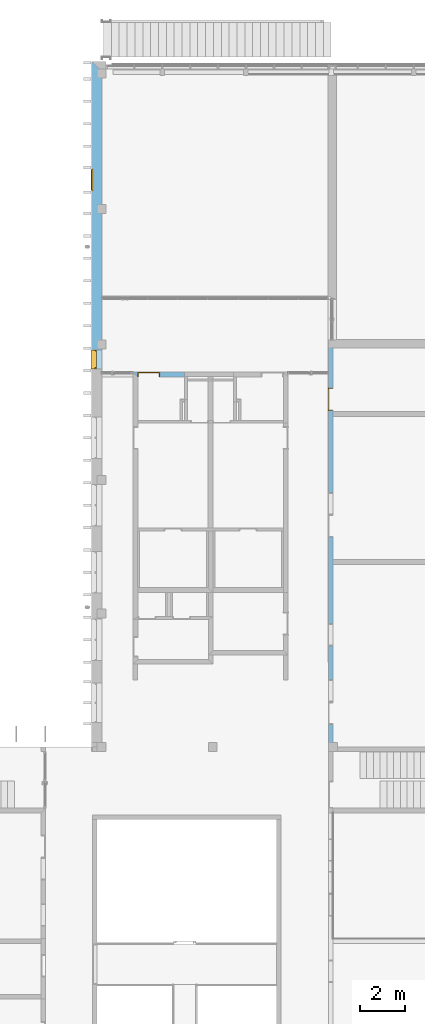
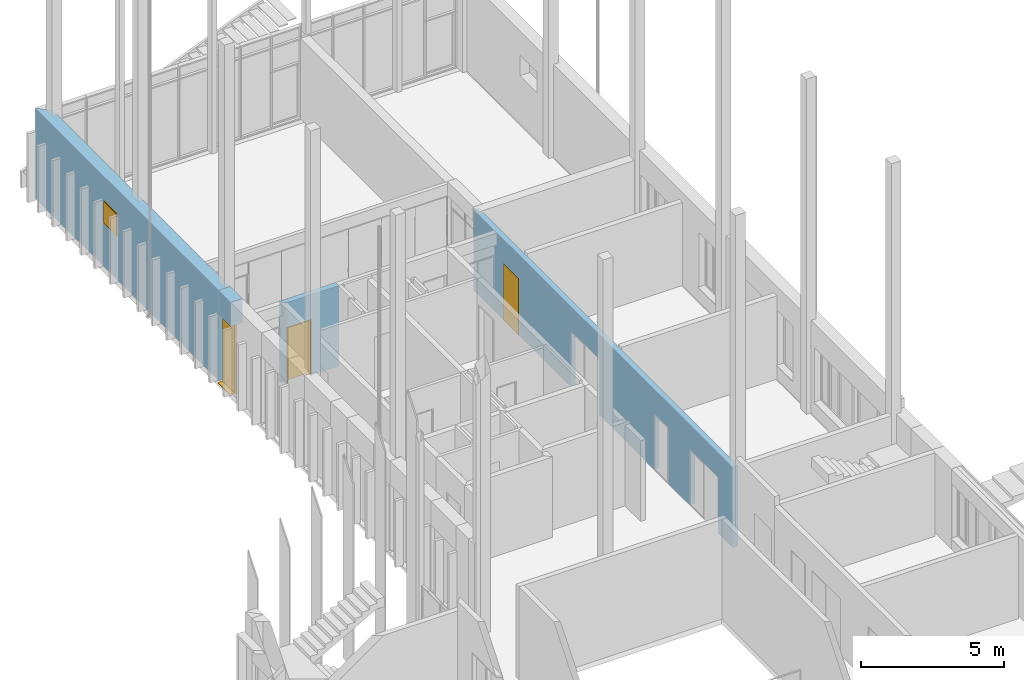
# One storey, part 43 of 89: 2 doors, 2 windows, 9 openings, plus 4 elements that do not belong to this part.
"""IFC2X3 building model written with IfcOpenShell, lengths in millimetres."""

from ifc_helpers import new_model, entity, si_unit, converted_unit, derived_unit, money_unit, direction, frame, origin_with_axes, origin_2d_with_axis, place, context, subcontext, project, spatial, polyline, rectangle, outline, extrude, open_shell, faceted_brep, surface_model, material, layer, layer_set, layer_usage, type_object, element, fill, save


model = new_model("IFC2X3")

# Units and contexts
model_context = context("Model", 3, precision=0.01, world=origin_with_axes(), true_north=direction((0.0, 1.0)))
body_context = subcontext(model_context, "Body", "Model", "MODEL_VIEW")
ifc_project = project(units=[si_unit("LENGTHUNIT", "METRE", prefix="MILLI"), si_unit("AREAUNIT", "SQUARE_METRE"), si_unit("VOLUMEUNIT", "CUBIC_METRE"), converted_unit("PLANEANGLEUNIT", "DEGREE", entity("IfcPlaneAngleMeasure", 0.0174532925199), si_unit("PLANEANGLEUNIT", "RADIAN"), dimensions=[0, 0, 0, 0, 0, 0, 0]), si_unit("SOLIDANGLEUNIT", "STERADIAN"), money_unit("EUR"), converted_unit("TIMEUNIT", "Year", entity("IfcTimeMeasure", 31556926.0), si_unit("TIMEUNIT", "SECOND"), dimensions=[0, 0, 1, 0, 0, 0, 0]), si_unit("MASSUNIT", "GRAM", prefix="KILO"), si_unit("THERMODYNAMICTEMPERATUREUNIT", "DEGREE_CELSIUS"), si_unit("LUMINOUSINTENSITYUNIT", "LUMEN"), si_unit("ENERGYUNIT", "JOULE", prefix="MEGA"), derived_unit("THERMALCONDUCTANCEUNIT", [(si_unit("POWERUNIT", "WATT"), 1), (si_unit("LENGTHUNIT", "METRE"), -1), (si_unit("THERMODYNAMICTEMPERATUREUNIT", "KELVIN"), -1)]), derived_unit("SPECIFICHEATCAPACITYUNIT", [(si_unit("ENERGYUNIT", "JOULE"), 1), (si_unit("MASSUNIT", "GRAM", prefix="KILO"), -1), (si_unit("THERMODYNAMICTEMPERATUREUNIT", "KELVIN"), -1)]), derived_unit("MASSDENSITYUNIT", [(si_unit("MASSUNIT", "GRAM", prefix="KILO"), 1), (si_unit("VOLUMEUNIT", "CUBIC_METRE"), -1)])], contexts=[model_context])

# Site, building, storey
site_placement = place(None, origin_with_axes())
site = spatial("IfcSite", under=ifc_project, at=site_placement, Name="Puškini 31, Narva", CompositionType="ELEMENT")
building_placement = place(site_placement, origin_with_axes())
building = spatial("IfcBuilding", under=site, at=building_placement, Name="Narva Riigigümnaasium", CompositionType="ELEMENT")
storey_placement = place(building_placement, frame((0.0, 0.0, -3300.0), z_axis=(0.0, 0.0, 1.0), x_axis=(1.0, 0.0, 0.0)))
storey = spatial("IfcBuildingStorey", under=building, at=storey_placement, Name="1.korrus -3.3", CompositionType="ELEMENT", Elevation=-3300.0)

# Wall, opening, window
ifc_material_1 = material(Name="fassaadiplaat")
ifc_layer_1 = layer(ifc_material_1, 8.0, ventilated="UNKNOWN")
ifc_material_2 = material(Name="Salto-roovitus")
ifc_layer_2 = layer(ifc_material_2, 50.0, ventilated="UNKNOWN")
ifc_material_3 = material(Name="Salto-PIR soojustus")
ifc_layer_3 = layer(ifc_material_3, 50.0, ventilated="UNKNOWN")
ifc_layer_4 = layer(ifc_material_3, 150.0, ventilated="UNKNOWN")
ifc_material_4 = material(Name="Betoon element")
ifc_layer_5 = layer(ifc_material_4, 200.0, ventilated="UNKNOWN")
ifc_material_5 = material(Name="Salto-siseviimistlus-seinad")
ifc_layer_6 = layer(ifc_material_5, 10.0, ventilated="UNKNOWN")
ifc_layer_set_1 = layer_set([ifc_layer_1, ifc_layer_2, ifc_layer_3, ifc_layer_4, ifc_layer_5, ifc_layer_6], Name="G-VS-01")
ifc_layer_usage_1 = layer_usage(ifc_layer_set_1, "AXIS2", "POSITIVE", -458.0)
wall_type_1 = type_object("IfcWallType", Name="G-VS-01 468", PredefinedType="NOTDEFINED")
wall_1_placement = place(storey_placement, frame((37400.0000002, 254108.805854, 100.0), z_axis=(0.0, 0.0, 1.0), x_axis=(0.0, -1.0, 0.0)))
wall_1 = element("IfcWallStandardCase", 1, at=wall_1_placement, inside=storey, type_object=wall_type_1, material=ifc_layer_usage_1, Name="Välissein", context=body_context, shape_type="SweptSolid", body=[
    extrude(outline(polyline([(-458.0, -458.0), (12399.5932762, -458.0), (12399.5932762, 10.0), (9.99999999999, 10.0), (-458.0, -458.0)])), origin_with_axes(), (0.0, 0.0, 1.0), 3859.99999955),
])
opening_1_placement = place(wall_1_placement, frame((4824.59327625, 0.0, 1850.0), z_axis=(0.0, 0.0, 1.0), x_axis=(1.0, 0.0, 0.0)))
opening_1 = element("IfcOpeningElement", 2, at=opening_1_placement, cuts=wall_1, Name="G-SL-01", context=body_context, shape_type="SweptSolid", body=[
    extrude(rectangle(XDim=990.0, YDim=990.0, at=origin_2d_with_axis()), frame((0.0, 468.0, 495.0), z_axis=(0.0, 1.0, 0.0), x_axis=(1.0, 0.0, 0.0)), (0.0, 0.0, -1.0), 1404.0),
])
window_style_1 = type_object("IfcWindowStyle", Name="Horizontal Multi-Sash Window 23", ConstructionType="NOTDEFINED", OperationType="SINGLE_PANEL", ParameterTakesPrecedence=False, Sizeable=False)
window_1_placement = place(opening_1_placement, frame((495.0, 0.0, 0.0), z_axis=(0.0, 0.0, 1.0), x_axis=(-1.0, 0.0, 0.0)))
window_1 = element("IfcWindow", 3, at=window_1_placement, inside=storey, type_object=window_style_1, Name="G-SL-01", ObjectType="WINDOW", OverallHeight=990.0, OverallWidth=990.0, context=body_context, shape_type="Brep", body=[
    faceted_brep([(950.0, 458.0, 940.0), (950.0, 388.0, 940.0), (940.0, 388.0, 940.0), (940.0, 383.0, 940.0), (990.0, 383.0, 940.0), (990.0, 458.0, 940.0), (950.0, 458.0, 50.0), (950.0, 388.0, 50.0), (940.0, 388.0, 50.0), (940.0, 383.0, 50.0), (990.0, 383.0, 50.0), (990.0, 458.0, 50.0)], [[[0, 1, 2, 3, 4, 5]], [[1, 0, 6, 7]], [[8, 2, 1, 7]], [[2, 8, 9, 3]], [[4, 3, 9, 10]], [[5, 4, 10, 11]], [[6, 0, 5, 11]], [[7, 6, 11, 10, 9, 8]]]),
    faceted_brep([(50.0, 388.0, 940.0), (40.0, 388.0, 940.0), (40.0, 458.0, 940.0), (0.0, 458.0, 940.0), (0.0, 383.0, 940.0), (50.0, 383.0, 940.0), (50.0, 388.0, 50.0), (40.0, 388.0, 50.0), (40.0, 458.0, 50.0), (0.0, 458.0, 50.0), (0.0, 383.0, 50.0), (50.0, 383.0, 50.0)], [[[0, 1, 2, 3, 4, 5]], [[1, 0, 6, 7]], [[8, 2, 1, 7]], [[2, 8, 9, 3]], [[9, 10, 4, 3]], [[10, 11, 5, 4]], [[6, 0, 5, 11]], [[7, 6, 11, 10, 9, 8]]]),
    faceted_brep([(950.0, 458.0, 940.0), (950.0, 458.0, 950.0), (40.0, 458.0, 950.0), (40.0, 458.0, 940.0), (0.0, 458.0, 940.0), (0.0, 458.0, 990.0), (990.0, 458.0, 990.0), (990.0, 458.0, 940.0), (950.0, 388.0, 940.0), (950.0, 388.0, 950.0), (40.0, 388.0, 950.0), (40.0, 388.0, 940.0), (50.0, 388.0, 940.0), (50.0, 383.0, 940.0), (0.0, 383.0, 940.0), (0.0, 383.0, 990.0), (990.0, 383.0, 990.0), (990.0, 383.0, 940.0), (940.0, 383.0, 940.0), (940.0, 388.0, 940.0)], [[[0, 1, 2, 3, 4, 5, 6, 7]], [[1, 0, 8, 9]], [[2, 1, 9, 10]], [[3, 2, 10, 11]], [[11, 12, 13, 14, 4, 3]], [[4, 14, 15, 5]], [[5, 15, 16, 6]], [[6, 16, 17, 7]], [[8, 0, 7, 17, 18, 19]], [[12, 11, 10, 9, 8, 19]], [[12, 19, 18, 13]], [[14, 13, 18, 17, 16, 15]]]),
    faceted_brep([(50.0, 388.0, 50.0), (40.0, 388.0, 50.0), (40.0, 458.0, 50.0), (0.0, 458.0, 50.0), (0.0, 383.0, 50.0), (50.0, 383.0, 50.0), (940.0, 388.0, 50.0), (950.0, 388.0, 50.0), (950.0, 388.0, 40.0), (40.0, 388.0, 40.0), (40.0, 458.0, 40.0), (950.0, 458.0, 40.0), (950.0, 458.0, 50.0), (990.0, 458.0, 50.0), (990.0, 458.0, 0.0), (0.0, 458.0, 0.0), (0.0, 383.0, 0.0), (990.0, 383.0, 50.0), (940.0, 383.0, 50.0), (990.0, 383.0, 0.0)], [[[0, 1, 2, 3, 4, 5]], [[1, 0, 6, 7, 8, 9]], [[10, 2, 1, 9]], [[11, 12, 13, 14, 15, 3, 2, 10]], [[15, 16, 4, 3]], [[17, 18, 5, 4, 16, 19]], [[6, 0, 5, 18]], [[7, 6, 18, 17, 13, 12]], [[7, 12, 11, 8]], [[11, 10, 9, 8]], [[13, 17, 19, 14]], [[14, 19, 16, 15]]]),
    faceted_brep([(950.0, 388.0, 40.0), (40.0, 388.0, 40.0), (40.0, 473.0, 40.0), (950.0, 473.0, 40.0), (950.0, 388.0, 950.0), (40.0, 388.0, 950.0), (40.0, 473.0, 950.0), (950.0, 473.0, 950.0)], [[[0, 1, 2, 3]], [[0, 4, 5, 1]], [[1, 5, 6, 2]], [[3, 2, 6, 7]], [[4, 0, 3, 7]], [[5, 4, 7, 6]]]),
])
fill(opening_1, window_1)

wall_2_placement = place(storey_placement, frame((37400.0000002, 241709.212578, 0.0), z_axis=(0.0, 0.0, 1.0), x_axis=(0.0, -1.0, 0.0)))
wall_2 = element("IfcWallStandardCase", 4, at=wall_2_placement, inside=storey, type_object=wall_type_1, material=ifc_layer_usage_1, Name="Välissein", context=body_context, shape_type="SweptSolid", body=[
    extrude(outline(polyline([(0.0, -458.0), (850.0, -458.0), (850.0, 10.0), (0.0, 10.0), (0.0, -458.0)])), origin_with_axes(), (0.0, 0.0, 1.0), 3959.99999955),
])
opening_2_placement = place(wall_2_placement, frame((425.0, 0.0, 0.0), z_axis=(0.0, 0.0, 1.0), x_axis=(1.0, 0.0, 0.0)))
opening_2 = element("IfcOpeningElement", 5, at=opening_2_placement, cuts=wall_2, Name="G-A-27", context=body_context, shape_type="SweptSolid", body=[
    extrude(rectangle(XDim=850.0, YDim=2940.0, at=origin_2d_with_axis()), frame((0.0, -308.0, 1470.0), z_axis=(0.0, 1.0, 0.0), x_axis=(-1.0, 0.0, 0.0)), (0.0, 0.0, 1.0), 786.0),
    extrude(rectangle(XDim=850.0, YDim=2940.0, at=origin_2d_with_axis()), frame((0.0, -308.0, 1470.0), z_axis=(0.0, -1.0, 0.0), x_axis=(-1.0, 0.0, 0.0)), (0.0, 0.0, 1.0), 618.0),
])
window_style_2 = type_object("IfcWindowStyle", Name="Horizontal Multi-Sash Window 23", ConstructionType="NOTDEFINED", OperationType="SINGLE_PANEL", ParameterTakesPrecedence=False, Sizeable=False)
window_2_placement = place(opening_2_placement, frame((-425.0, 0.0, 0.0), z_axis=(0.0, 0.0, 1.0), x_axis=(1.0, 0.0, 0.0)))
window_2 = element("IfcWindow", 6, at=window_2_placement, inside=storey, type_object=window_style_2, Name="G-A-27", ObjectType="WINDOW", OverallHeight=2940.0, OverallWidth=850.0, context=body_context, shape_type="SurfaceModel", body=[
    surface_model("IfcShellBasedSurfaceModel", [(850.0, -309.0, 50.0), (0.0, -309.0, 50.0), (0.0, -309.0, 40.0), (850.0, -309.0, 40.0), (0.0, -488.0, 28.0), (850.0, -488.0, 28.0), (0.0, -488.0, 8.0), (850.0, -488.0, 8.0), (0.0, -478.0, 18.0), (850.0, -478.0, 18.0)], [open_shell([[[0, 1, 2, 3]], [[3, 2, 4, 5]], [[5, 4, 6, 7]], [[7, 6, 8, 9]]])]),
    faceted_brep([(800.0, -308.0, 2890.0), (850.0, -308.0, 2890.0), (850.0, -233.0, 2890.0), (800.0, -233.0, 2890.0), (800.0, -308.0, 50.0), (850.0, -308.0, 50.0), (850.0, -233.0, 50.0), (800.0, -233.0, 50.0)], [[[0, 1, 2, 3]], [[0, 4, 5, 1]], [[1, 5, 6, 2]], [[3, 2, 6, 7]], [[4, 0, 3, 7]], [[5, 4, 7, 6]]]),
    faceted_brep([(50.0, -308.0, 50.0), (0.0, -308.0, 50.0), (0.0, -233.0, 50.0), (50.0, -233.0, 50.0), (50.0, -308.0, 2890.0), (0.0, -308.0, 2890.0), (0.0, -233.0, 2890.0), (50.0, -233.0, 2890.0)], [[[0, 1, 2, 3]], [[0, 4, 5, 1]], [[1, 5, 6, 2]], [[3, 2, 6, 7]], [[4, 0, 3, 7]], [[5, 4, 7, 6]]]),
    faceted_brep([(50.0, -308.0, 2890.0), (0.0, -308.0, 2890.0), (0.0, -233.0, 2890.0), (50.0, -233.0, 2890.0), (800.0, -308.0, 2890.0), (850.0, -308.0, 2890.0), (850.0, -308.0, 2940.0), (0.0, -308.0, 2940.0), (0.0, -233.0, 2940.0), (850.0, -233.0, 2940.0), (850.0, -233.0, 2890.0), (800.0, -233.0, 2890.0)], [[[0, 1, 2, 3]], [[0, 4, 5, 6, 7, 1]], [[1, 7, 8, 2]], [[3, 2, 8, 9, 10, 11]], [[4, 0, 3, 11]], [[5, 4, 11, 10]], [[6, 5, 10, 9]], [[7, 6, 9, 8]]]),
    faceted_brep([(800.0, -308.0, 50.0), (850.0, -308.0, 50.0), (850.0, -233.0, 50.0), (800.0, -233.0, 50.0), (50.0, -308.0, 50.0), (0.0, -308.0, 50.0), (0.0, -308.0, 0.0), (850.0, -308.0, 0.0), (850.0, -233.0, 0.0), (0.0, -233.0, 0.0), (0.0, -233.0, 50.0), (50.0, -233.0, 50.0)], [[[0, 1, 2, 3]], [[0, 4, 5, 6, 7, 1]], [[1, 7, 8, 2]], [[3, 2, 8, 9, 10, 11]], [[4, 0, 3, 11]], [[5, 4, 11, 10]], [[6, 5, 10, 9]], [[7, 6, 9, 8]]]),
    surface_model("IfcShellBasedSurfaceModel", [(800.0, -313.0, 50.0), (800.0, -313.0, 2890.0), (50.0, -313.0, 2890.0), (50.0, -313.0, 50.0)], [open_shell([[[0, 1, 2, 3]]])]),
    surface_model("IfcShellBasedSurfaceModel", [(800.0, -293.0, 50.0), (50.0, -293.0, 50.0), (50.0, -293.0, 2890.0), (800.0, -293.0, 2890.0)], [open_shell([[[0, 1, 2, 3]]])]),
])
fill(opening_2, window_2)

# Wall, openings, door
ifc_material_6 = material(Name="siseviimistlus-seinad")
ifc_layer_7 = layer(ifc_material_6, 10.0, ventilated="UNKNOWN")
ifc_layer_set_2 = layer_set([ifc_layer_5, ifc_layer_7], Name="G-SS-01-02")
ifc_layer_usage_2 = layer_usage(ifc_layer_set_2, "AXIS2", "POSITIVE", 0.0)
wall_type_2 = type_object("IfcWallType", Name="G-SS-01-02 210", PredefinedType="NOTDEFINED")
wall_3_placement = place(storey_placement, frame((47500.0000001, 242160.000057, 0.0), z_axis=(0.0, 0.0, 1.0), x_axis=(0.0, -1.0, 0.0)))
wall_3 = element("IfcWallStandardCase", 7, at=wall_3_placement, inside=storey, type_object=wall_type_2, material=ifc_layer_usage_2, Name="Sisesein", context=body_context, shape_type="SweptSolid", body=[
    extrude(outline(polyline([(0.0, 0.0), (18160.0000567, 0.0), (18160.0000567, 210.0), (0.0, 210.0), (0.0, 0.0)])), origin_with_axes(), (0.0, 0.0, 1.0), 3445.0),
])
opening_3_placement = place(wall_3_placement, frame((15650.0000565, 0.0, 0.0), z_axis=(0.0, 0.0, 1.0), x_axis=(1.0, 0.0, 0.0)))
element("IfcOpeningElement", 8, at=opening_3_placement, cuts=wall_3, Name="G-SA-1", context=body_context, shape_type="SweptSolid", body=[
    extrude(rectangle(XDim=1000.0, YDim=2400.0, at=origin_2d_with_axis()), frame((0.0, 210.0, 1200.0), z_axis=(0.0, -1.0, 0.0), x_axis=(-1.0, 0.0, 0.0)), (0.0, 0.0, 1.0), 630.0),
])
opening_4_placement = place(wall_3_placement, frame((13154.7633082, 0.0, 0.0), z_axis=(0.0, 0.0, 1.0), x_axis=(1.0, 0.0, 0.0)))
element("IfcOpeningElement", 9, at=opening_4_placement, cuts=wall_3, Name="G-SA-1", context=body_context, shape_type="SweptSolid", body=[
    extrude(rectangle(XDim=1000.0, YDim=2400.0, at=origin_2d_with_axis()), frame((0.0, 210.0, 1200.0), z_axis=(0.0, -1.0, 0.0), x_axis=(-1.0, 0.0, 0.0)), (0.0, 0.0, 1.0), 630.0),
])
opening_5_placement = place(wall_3_placement, frame((7306.06697513, 0.0, 0.0), z_axis=(0.0, 0.0, 1.0), x_axis=(1.0, 0.0, 0.0)))
element("IfcOpeningElement", 10, at=opening_5_placement, cuts=wall_3, Name="G-SA-1", context=body_context, shape_type="SweptSolid", body=[
    extrude(rectangle(XDim=1000.0, YDim=2400.0, at=origin_2d_with_axis()), frame((0.0, 210.0, 1200.0), z_axis=(0.0, -1.0, 0.0), x_axis=(-1.0, 0.0, 0.0)), (0.0, 0.0, 1.0), 630.0),
])
opening_6_placement = place(wall_3_placement, frame((2654.76330894, 0.0, 0.0), z_axis=(0.0, 0.0, 1.0), x_axis=(1.0, 0.0, 0.0)))
opening_6 = element("IfcOpeningElement", 11, at=opening_6_placement, cuts=wall_3, Name="G-SU-052", context=body_context, shape_type="SweptSolid", body=[
    extrude(rectangle(XDim=1000.0, YDim=2400.0, at=origin_2d_with_axis()), frame((0.0, 210.0, 1200.0), z_axis=(0.0, -1.0, 0.0), x_axis=(1.0, 0.0, 0.0)), (0.0, 0.0, 1.0), 630.0),
    extrude(rectangle(XDim=1060.0, YDim=2430.0, at=origin_2d_with_axis()), frame((0.0, 210.0, 1215.0), z_axis=(0.0, -1.0, 0.0), x_axis=(1.0, 0.0, 0.0)), (0.0, 0.0, -1.0), 210.0),
    extrude(rectangle(XDim=1056.0, YDim=2428.0, at=origin_2d_with_axis()), frame((0.0, 0.0, 1214.0), z_axis=(0.0, 1.0, 0.0), x_axis=(1.0, 0.0, 0.0)), (0.0, 0.0, -1.0), 210.0),
])
opening_7_placement = place(wall_3_placement, frame((8306.06697513, 0.0, 0.0), z_axis=(0.0, 0.0, 1.0), x_axis=(1.0, 0.0, 0.0)))
element("IfcOpeningElement", 12, at=opening_7_placement, cuts=wall_3, Name="G-SU-053", context=body_context, shape_type="SweptSolid", body=[
    extrude(rectangle(XDim=1000.0, YDim=2400.0, at=origin_2d_with_axis()), frame((0.0, 210.0, 1200.0), z_axis=(0.0, 1.0, 0.0), x_axis=(1.0, 0.0, 0.0)), (0.0, 0.0, -1.0), 630.0),
])
opening_8_placement = place(wall_3_placement, frame((16650.0000565, 0.0, 0.0), z_axis=(0.0, 0.0, 1.0), x_axis=(1.0, 0.0, 0.0)))
element("IfcOpeningElement", 13, at=opening_8_placement, cuts=wall_3, Name="G-SU-054", context=body_context, shape_type="SweptSolid", body=[
    extrude(rectangle(XDim=1000.0, YDim=2400.0, at=origin_2d_with_axis()), frame((0.0, 210.0, 1200.0), z_axis=(0.0, 1.0, 0.0), x_axis=(1.0, 0.0, 0.0)), (0.0, 0.0, -1.0), 630.0),
])
door_style_1 = type_object("IfcDoorStyle", Name="Door 23", ConstructionType="NOTDEFINED", OperationType="SINGLE_SWING_RIGHT", ParameterTakesPrecedence=False, Sizeable=False)
door_1_placement = place(opening_6_placement, frame((-500.0, 0.0, 0.0), z_axis=(0.0, 0.0, 1.0), x_axis=(1.0, 0.0, 0.0)))
door_1 = element("IfcDoor", 14, at=door_1_placement, inside=storey, type_object=door_style_1, Name="G-SU-052", ObjectType="DOOR", OverallHeight=2400.0, OverallWidth=1000.0, context=body_context, shape_type="Brep", body=[
    faceted_brep([(0.0, 40.0, 0.0), (0.0, 210.0, 0.0), (30.0, 210.0, 0.0), (30.0, 40.0, 0.0), (0.0, 40.0, 2400.0), (0.0, 210.0, 2400.0), (30.0, 210.0, 2370.0), (30.0, 40.0, 2370.0)], [[[0, 1, 2, 3]], [[4, 5, 1, 0]], [[1, 5, 6, 2]], [[3, 2, 6, 7]], [[0, 3, 7, 4]], [[7, 6, 5, 4]]]),
    faceted_brep([(1000.0, 40.0, 2400.0), (1000.0, 210.0, 2400.0), (970.0, 210.0, 2370.0), (970.0, 40.0, 2370.0), (1000.0, 40.0, 0.0), (1000.0, 210.0, 0.0), (970.0, 210.0, 0.0), (970.0, 40.0, 0.0)], [[[0, 1, 2, 3]], [[4, 5, 1, 0]], [[1, 5, 6, 2]], [[3, 2, 6, 7]], [[0, 3, 7, 4]], [[7, 6, 5, 4]]]),
    faceted_brep([(30.0, 40.0, 2370.0), (30.0, 210.0, 2370.0), (970.0, 210.0, 2370.0), (970.0, 40.0, 2370.0), (0.0, 40.0, 2400.0), (0.0, 210.0, 2400.0), (1000.0, 210.0, 2400.0), (1000.0, 40.0, 2400.0)], [[[0, 1, 2, 3]], [[4, 5, 1, 0]], [[1, 5, 6, 2]], [[3, 2, 6, 7]], [[0, 3, 7, 4]], [[7, 6, 5, 4]]]),
    faceted_brep([(-30.0, 220.0, 0.0), (30.0, 220.0, 0.0), (30.0, 210.0, 0.0), (-30.0, 210.0, 0.0), (-30.0, 220.0, 2430.0), (30.0, 220.0, 2370.0), (30.0, 210.0, 2370.0), (-30.0, 210.0, 2430.0)], [[[0, 1, 2, 3]], [[0, 4, 5, 1]], [[1, 5, 6, 2]], [[3, 2, 6, 7]], [[4, 0, 3, 7]], [[5, 4, 7, 6]]]),
    faceted_brep([(1030.0, 220.0, 2430.0), (970.0, 220.0, 2370.0), (970.0, 210.0, 2370.0), (1030.0, 210.0, 2430.0), (1030.0, 220.0, 0.0), (970.0, 220.0, 0.0), (970.0, 210.0, 0.0), (1030.0, 210.0, 0.0)], [[[0, 1, 2, 3]], [[0, 4, 5, 1]], [[1, 5, 6, 2]], [[3, 2, 6, 7]], [[4, 0, 3, 7]], [[5, 4, 7, 6]]]),
    faceted_brep([(-30.0, 220.0, 2430.0), (30.0, 220.0, 2370.0), (30.0, 210.0, 2370.0), (-30.0, 210.0, 2430.0), (1030.0, 220.0, 2430.0), (970.0, 220.0, 2370.0), (970.0, 210.0, 2370.0), (1030.0, 210.0, 2430.0)], [[[0, 1, 2, 3]], [[0, 4, 5, 1]], [[1, 5, 6, 2]], [[3, 2, 6, 7]], [[4, 0, 3, 7]], [[5, 4, 7, 6]]]),
    faceted_brep([(-28.0, -10.0, 0.0), (-28.0, 0.0, 0.0), (42.0, 0.0, 0.0), (42.0, -10.0, 0.0), (-28.0, -10.0, 2428.0), (-28.0, 0.0, 2428.0), (42.0, 0.0, 2358.0), (42.0, -10.0, 2358.0)], [[[0, 1, 2, 3]], [[4, 5, 1, 0]], [[1, 5, 6, 2]], [[3, 2, 6, 7]], [[0, 3, 7, 4]], [[7, 6, 5, 4]]]),
    faceted_brep([(1028.0, -10.0, 2428.0), (1028.0, 0.0, 2428.0), (958.0, 0.0, 2358.0), (958.0, -10.0, 2358.0), (1028.0, -10.0, 0.0), (1028.0, 0.0, 0.0), (958.0, 0.0, 0.0), (958.0, -10.0, 0.0)], [[[0, 1, 2, 3]], [[4, 5, 1, 0]], [[1, 5, 6, 2]], [[3, 2, 6, 7]], [[0, 3, 7, 4]], [[7, 6, 5, 4]]]),
    faceted_brep([(-28.0, -10.0, 2428.0), (-28.0, 0.0, 2428.0), (42.0, 0.0, 2358.0), (42.0, -10.0, 2358.0), (1028.0, -10.0, 2428.0), (1028.0, 0.0, 2428.0), (958.0, 0.0, 2358.0), (958.0, -10.0, 2358.0)], [[[0, 1, 2, 3]], [[4, 5, 1, 0]], [[1, 5, 6, 2]], [[3, 2, 6, 7]], [[0, 3, 7, 4]], [[7, 6, 5, 4]]]),
    faceted_brep([(0.0, 40.0, 0.0), (42.0, 40.0, 0.0), (42.0, 0.0, 0.0), (0.0, 0.0, 0.0), (0.0, 40.0, 2358.0), (42.0, 40.0, 2358.0), (42.0, 0.0, 2358.0), (0.0, 0.0, 2358.0)], [[[0, 1, 2, 3]], [[0, 4, 5, 1]], [[1, 5, 6, 2]], [[3, 2, 6, 7]], [[4, 0, 3, 7]], [[5, 4, 7, 6]]]),
    faceted_brep([(1000.0, 40.0, 0.0), (1000.0, 40.0, 2358.0), (1000.0, 0.0, 2358.0), (1000.0, 0.0, 0.0), (958.0, 40.0, 0.0), (958.0, 40.0, 2358.0), (958.0, 0.0, 2358.0), (958.0, 0.0, 0.0)], [[[0, 1, 2, 3]], [[0, 4, 5, 1]], [[1, 5, 6, 2]], [[3, 2, 6, 7]], [[4, 0, 3, 7]], [[5, 4, 7, 6]]]),
    faceted_brep([(0.0, 40.0, 2400.0), (0.0, 40.0, 2358.0), (0.0, 0.0, 2358.0), (0.0, 0.0, 2400.0), (1000.0, 40.0, 2400.0), (1000.0, 40.0, 2358.0), (958.0, 40.0, 2358.0), (42.0, 40.0, 2358.0), (42.0, 0.0, 2358.0), (958.0, 0.0, 2358.0), (1000.0, 0.0, 2358.0), (1000.0, 0.0, 2400.0)], [[[0, 1, 2, 3]], [[0, 4, 5, 6, 7, 1]], [[1, 7, 8, 2]], [[3, 2, 8, 9, 10, 11]], [[4, 0, 3, 11]], [[5, 4, 11, 10]], [[6, 5, 10, 9]], [[7, 6, 9, 8]]]),
    faceted_brep([(958.0, 40.0, 0.0), (958.0, 0.0, 0.0), (42.0, 0.0, 0.0), (42.0, 40.0, 0.0), (958.0, 40.0, 2358.0), (958.0, 0.0, 2358.0), (42.0, 0.0, 2358.0), (42.0, 40.0, 2358.0)], [[[0, 1, 2, 3]], [[4, 5, 1, 0]], [[1, 5, 6, 2]], [[3, 2, 6, 7]], [[0, 3, 7, 4]], [[7, 6, 5, 4]]]),
])
fill(opening_6, door_1)

# Wall, opening, door
ifc_layer_8 = layer(ifc_material_6, 15.0, ventilated="UNKNOWN")
ifc_material_7 = material(Name="õõnes betoonplokk")
ifc_layer_9 = layer(ifc_material_7, 190.0, ventilated="UNKNOWN")
ifc_layer_set_3 = layer_set([ifc_layer_8, ifc_layer_9, ifc_layer_7], Name="G-SS-02-03")
ifc_layer_usage_3 = layer_usage(ifc_layer_set_3, "AXIS2", "POSITIVE", -15.0)
wall_type_3 = type_object("IfcWallType", Name="G-SS-02-03 215", PredefinedType="NOTDEFINED")
wall_4_placement = place(storey_placement, frame((39000.0000003, 240510.000001, 0.0), z_axis=(0.0, 0.0, 1.0), x_axis=(1.0, 0.0, 0.0)))
wall_4 = element("IfcWallStandardCase", 15, at=wall_4_placement, inside=storey, type_object=wall_type_3, material=ifc_layer_usage_3, Name="Sisesein", context=body_context, shape_type="SweptSolid", body=[
    extrude(outline(polyline([(15.0, -15.0), (2100.93401658, -15.0), (2100.93401658, 200.0), (-200.0, 200.0), (15.0, -15.0)])), origin_with_axes(), (0.0, 0.0, 1.0), 3445.0),
])
opening_9_placement = place(wall_4_placement, frame((500.0, 0.0, 0.0), z_axis=(0.0, 0.0, 1.0), x_axis=(1.0, 0.0, 0.0)))
opening_9 = element("IfcOpeningElement", 16, at=opening_9_placement, cuts=wall_4, Name="G-SU-039", context=body_context, shape_type="SweptSolid", body=[
    extrude(rectangle(XDim=1000.0, YDim=2400.0, at=origin_2d_with_axis()), frame((0.0, -215.0, 1200.0), z_axis=(0.0, -1.0, 0.0), x_axis=(-1.0, 0.0, 0.0)), (0.0, 0.0, -1.0), 645.0),
])
door_style_2 = type_object("IfcDoorStyle", Name="Door 23", ConstructionType="NOTDEFINED", OperationType="SINGLE_SWING_LEFT", ParameterTakesPrecedence=False, Sizeable=False)
door_2_placement = place(opening_9_placement, frame((-500.0, 0.0, 0.0), z_axis=(0.0, 0.0, 1.0), x_axis=(1.0, 0.0, 0.0)))
door_2 = element("IfcDoor", 17, at=door_2_placement, inside=storey, type_object=door_style_2, Name="G-SU-039", ObjectType="DOOR", OverallHeight=2400.0, OverallWidth=1000.0, context=body_context, shape_type="Brep", body=[
    faceted_brep([(960.0, 160.0, 0.0), (960.0, -15.0, 0.0), (960.0, -15.0, 2360.0), (960.0, 160.0, 2360.0), (972.0, 160.0, 0.0), (972.0, 200.0, 0.0), (1000.0, 200.0, 0.0), (1000.0, -15.0, 0.0), (1000.0, -15.0, 2360.0), (972.0, 160.0, 2360.0), (1000.0, 200.0, 2360.0), (972.0, 200.0, 2360.0)], [[[0, 1, 2, 3]], [[4, 5, 6, 7, 1, 0]], [[1, 7, 8, 2]], [[9, 3, 2, 8, 10, 11]], [[9, 4, 0, 3]], [[11, 5, 4, 9]], [[11, 10, 6, 5]], [[6, 10, 8, 7]]]),
    faceted_brep([(28.0, 160.0, 2360.0), (28.0, 200.0, 2360.0), (0.0, 200.0, 2360.0), (0.0, -15.0, 2360.0), (40.0, -15.0, 2360.0), (40.0, 160.0, 2360.0), (28.0, 160.0, 0.0), (28.0, 200.0, 0.0), (0.0, 200.0, 0.0), (0.0, -15.0, 0.0), (40.0, -15.0, 0.0), (40.0, 160.0, 0.0)], [[[0, 1, 2, 3, 4, 5]], [[0, 6, 7, 1]], [[7, 8, 2, 1]], [[2, 8, 9, 3]], [[3, 9, 10, 4]], [[5, 4, 10, 11]], [[5, 11, 6, 0]], [[6, 11, 10, 9, 8, 7]]]),
    faceted_brep([(972.0, 200.0, 2372.0), (28.0, 200.0, 2372.0), (28.0, 200.0, 2360.0), (0.0, 200.0, 2360.0), (0.0, 200.0, 2400.0), (1000.0, 200.0, 2400.0), (1000.0, 200.0, 2360.0), (972.0, 200.0, 2360.0), (972.0, 160.0, 2372.0), (28.0, 160.0, 2372.0), (28.0, 160.0, 2360.0), (40.0, 160.0, 2360.0), (40.0, -15.0, 2360.0), (0.0, -15.0, 2360.0), (0.0, -15.0, 2400.0), (1000.0, -15.0, 2400.0), (1000.0, -15.0, 2360.0), (972.0, 160.0, 2360.0), (960.0, -15.0, 2360.0), (960.0, 160.0, 2360.0)], [[[0, 1, 2, 3, 4, 5, 6, 7]], [[0, 8, 9, 1]], [[1, 9, 10, 2]], [[10, 11, 12, 13, 3, 2]], [[4, 3, 13, 14]], [[5, 4, 14, 15]], [[6, 5, 15, 16]], [[17, 7, 6, 16, 18, 19]], [[7, 17, 8, 0]], [[10, 9, 8, 17, 19, 11]], [[19, 18, 12, 11]], [[12, 18, 16, 15, 14, 13]]]),
    faceted_brep([(28.0, 200.0, 0.0), (972.0, 200.0, 0.0), (972.0, 160.0, 0.0), (28.0, 160.0, 0.0), (28.0, 200.0, 2372.0), (972.0, 200.0, 2372.0), (972.0, 160.0, 2372.0), (28.0, 160.0, 2372.0)], [[[0, 1, 2, 3]], [[0, 4, 5, 1]], [[1, 5, 6, 2]], [[3, 2, 6, 7]], [[4, 0, 3, 7]], [[5, 4, 7, 6]]]),
])
fill(opening_9, door_2)

save(model, "model.ifc")
